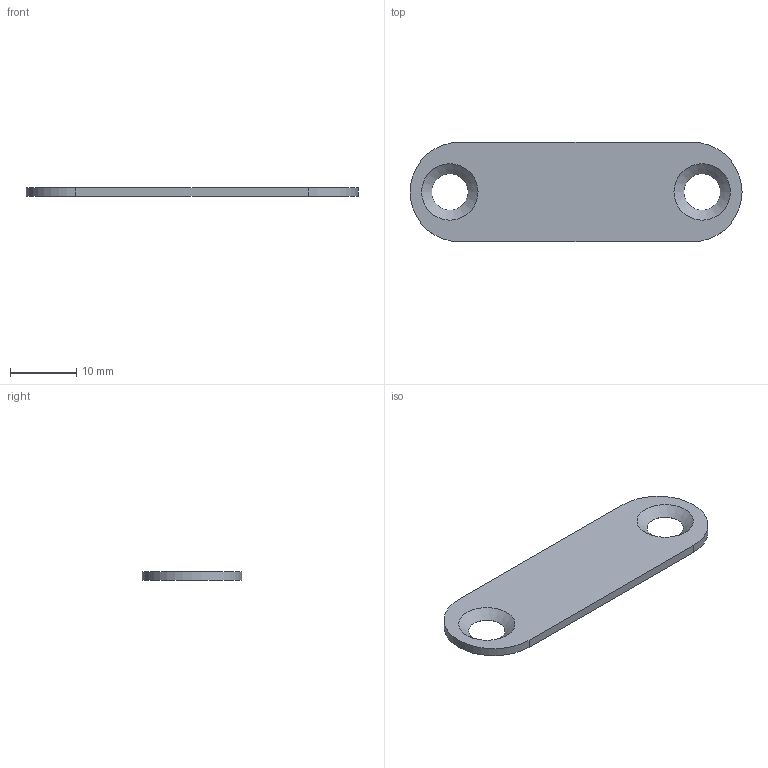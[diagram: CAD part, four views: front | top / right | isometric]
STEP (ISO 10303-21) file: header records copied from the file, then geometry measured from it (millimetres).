
FILE_DESCRIPTION(/* description */ (''),/* implementation_level */ '2;1');
FILE_NAME(/* name */ '\\NAS\db20\B-M38\DR_B-M38.stp',/* time_stamp */ '2017-09-08T10:25:21+09:00',/* author */ ('user'),/* organization */ (''),/* preprocessor_version */ 'ST-DEVELOPER v15.6',/* originating_system */ 'Autodesk Inventor 2015',/* authorisation */ '');
FILE_SCHEMA (('AUTOMOTIVE_DESIGN { 1 0 10303 214 3 1 1 }'));
Length unit declared in the file: millimetre
Products named in the file (1): DR_B-M38
Bounding box: 50 x 15 x 1.3 mm (x, y, z)
Volume: 811.9 mm3; surface area: 1482.2 mm2
Topology: 1 solids, 1 shells, 10 faces, 24 edges, 16 vertices
Faces by surface type: cylinder 4, plane 4, cone 2
Full cylindrical faces by diameter (mm): 5.5 x2
Entity records: 292 total; most frequent: DIRECTION 50, CARTESIAN_POINT 43, ORIENTED_EDGE 36, AXIS2_PLACEMENT_3D 21, EDGE_LOOP 18, EDGE_CURVE 18, VERTEX_POINT 14, FACE_OUTER_BOUND 10
